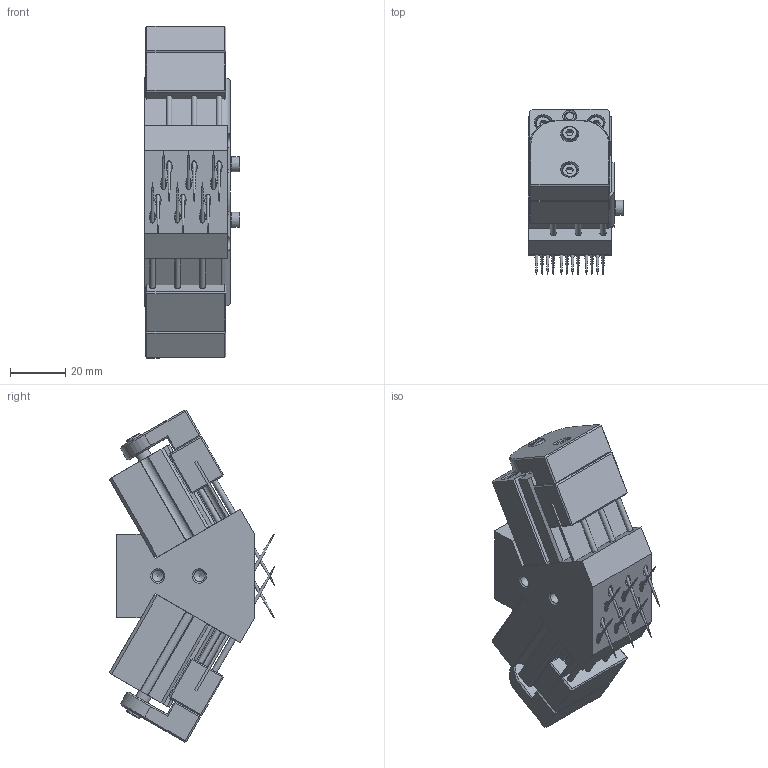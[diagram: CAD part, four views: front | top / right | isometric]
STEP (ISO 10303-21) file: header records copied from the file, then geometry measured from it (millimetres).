
FILE_DESCRIPTION(/* description */ ('Nadelgreifer 2,5mm hub'),/* implementation_level */ '2;1');
FILE_NAME(/* name */ 'W:\Technik\Konstruktion\CAD-Daten\EOAT\GR04_\GR04.711\Katalogzeichnug PDF\GR04.711-25.stp',/* time_stamp */ '2017-12-08T09:01:31+01:00',/* author */ ('rkob'),/* organization */ (''),/* preprocessor_version */ 'ST-DEVELOPER v16.5',/* originating_system */ 'Autodesk Inventor 2017',/* authorisation */ '');
FILE_SCHEMA (('AUTOMOTIVE_DESIGN { 1 0 10303 214 3 1 1 }'));
Length unit declared in the file: millimetre
Products named in the file (27): GR04.711-25; GR04.711; GR04.711-P1; GR04.710-10; GR04.710-2; GR04.710-3; GR04.710-4; C1 0055 N3571; DIN 472 J18; DR 1604 Z4004; O-Ring 13x1,5; O-Ring 3x1,2; DIN7-4m6x5; DIN7-1,5m6x3; GR04.710-5; GR04.711-P4; GR04.711-P3; GR04.710-7; GR04.710-8; GR04.711-P2; GR04.711-P5; DIN912-M3x10; DIN912-M3x35; DIN7-3m6x8; GR04.711-P7; Schnorr S3; DIN912-M3x6
Assembly tree (53 placements, depth 4):
  GR04.711-25
    GR04.711
      GR04.711-P1
      GR04.710-10  x2
        GR04.710-2
        GR04.710-3
        GR04.710-4
        C1 0055 N3571
        DIN 472 J18
        DR 1604 Z4004
        O-Ring 13x1,5
        O-Ring 3x1,2
        DIN7-4m6x5
        DIN7-1,5m6x3
        GR04.710-5
      GR04.711-P4  x2
        GR04.711-P3
        GR04.710-7
        GR04.710-8
      GR04.711-P2  x2
      GR04.711-P5
      Schnorr S3  x8
      DIN912-M3x10  x4
      DIN912-M3x35  x4
      DIN7-3m6x8  x4
    GR04.711-P7
    Schnorr S3  x2
    DIN912-M3x6  x2
Bounding box: 34.5 x 59.65 x 119.7 mm (x, y, z)
Volume: 105548 mm3; surface area: 60103 mm2
Topology: 67 solids, 67 shells, 870 faces, 1860 edges, 1168 vertices
Faces by surface type: plane 451, cylinder 254, cone 133, torus 32
Full cylindrical faces by diameter (mm): 0.973 x4, 1.5 x8, 2 x24, 2.2 x24, 2.459 x10, 3 x22, 3.05 x4, 3.2 x10, 3.3 x10, 4 x4, 4.134 x6, 4.5 x4, 4.55 x2, 5 x2, 5.4 x10, 5.5 x10, 5.8 x4, 6 x2, 6.05 x2, 6.5 x8, 6.8 x4, 6.9 x4, 8 x2, 8.932 x2, 10 x4, 13.2 x2, 13.5 x4, 15.95 x4, 16 x4, 17.5 x1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
Entity records: 11752 total; most frequent: CARTESIAN_POINT 2083, DIRECTION 2024, ORIENTED_EDGE 1430, AXIS2_PLACEMENT_3D 822, EDGE_CURVE 715, EDGE_LOOP 714, VERTEX_POINT 545, FACE_OUTER_BOUND 419
